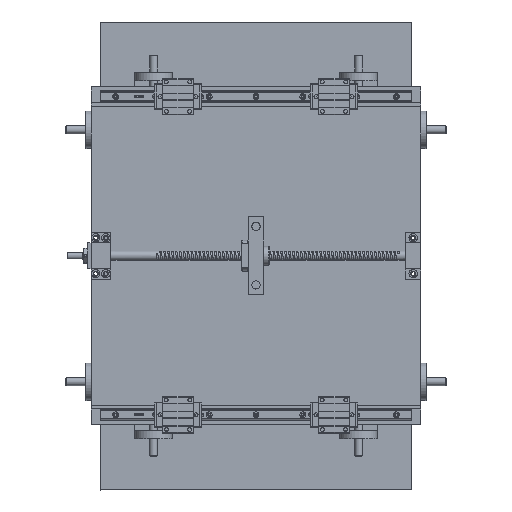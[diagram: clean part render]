
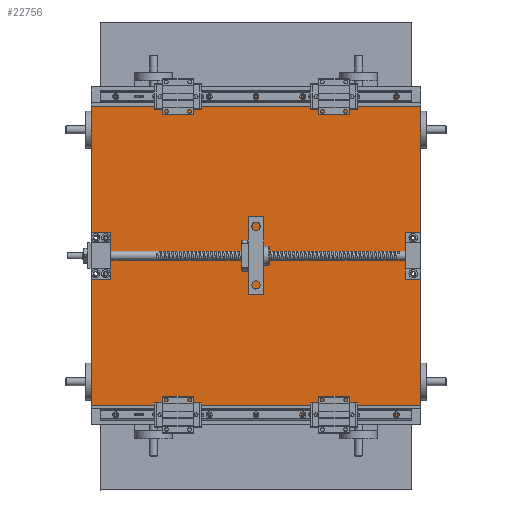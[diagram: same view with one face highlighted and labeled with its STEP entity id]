
A CAD part, top view. The second image highlights one B-rep face of the part: STEP entity #22756.
In plain terms, the highlighted planar face has unit normal (0, 0, 1).
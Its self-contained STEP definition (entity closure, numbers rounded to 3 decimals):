
#1565=FACE_BOUND('',#4392,.T.);
#1566=FACE_BOUND('',#4393,.T.);
#1567=FACE_BOUND('',#4394,.T.);
#1568=FACE_BOUND('',#4395,.T.);
#1569=FACE_BOUND('',#4396,.T.);
#1570=FACE_BOUND('',#4397,.T.);
#1571=FACE_BOUND('',#4398,.T.);
#4392=EDGE_LOOP('',(#20070));
#4393=EDGE_LOOP('',(#20071));
#4394=EDGE_LOOP('',(#20072));
#4395=EDGE_LOOP('',(#20073));
#4396=EDGE_LOOP('',(#20074));
#4397=EDGE_LOOP('',(#20075));
#4398=EDGE_LOOP('',(#20076,#20077,#20078,#20079));
#5294=CIRCLE('',#24505,2.459);
#5296=CIRCLE('',#24508,2.459);
#5298=CIRCLE('',#24511,2.459);
#5300=CIRCLE('',#24514,2.459);
#5302=CIRCLE('',#24517,2.459);
#5304=CIRCLE('',#24520,2.459);
#7429=LINE('',#44486,#9518);
#7432=LINE('',#44492,#9521);
#7435=LINE('',#44498,#9524);
#7438=LINE('',#44502,#9527);
#9518=VECTOR('',#29875,423.);
#9521=VECTOR('',#29880,433.);
#9524=VECTOR('',#29885,423.);
#9527=VECTOR('',#29890,433.);
#11479=VERTEX_POINT('',#44452);
#11481=VERTEX_POINT('',#44457);
#11483=VERTEX_POINT('',#44462);
#11485=VERTEX_POINT('',#44467);
#11487=VERTEX_POINT('',#44472);
#11489=VERTEX_POINT('',#44477);
#11492=VERTEX_POINT('',#44483);
#11493=VERTEX_POINT('',#44485);
#11495=VERTEX_POINT('',#44491);
#11497=VERTEX_POINT('',#44497);
#14418=EDGE_CURVE('',#11479,#11479,#5294,.T.);
#14420=EDGE_CURVE('',#11481,#11481,#5296,.T.);
#14422=EDGE_CURVE('',#11483,#11483,#5298,.T.);
#14424=EDGE_CURVE('',#11485,#11485,#5300,.T.);
#14426=EDGE_CURVE('',#11487,#11487,#5302,.T.);
#14428=EDGE_CURVE('',#11489,#11489,#5304,.T.);
#14431=EDGE_CURVE('',#11493,#11492,#7429,.T.);
#14434=EDGE_CURVE('',#11495,#11493,#7432,.T.);
#14437=EDGE_CURVE('',#11497,#11495,#7435,.T.);
#14440=EDGE_CURVE('',#11492,#11497,#7438,.T.);
#20070=ORIENTED_EDGE('',*,*,#14418,.T.);
#20071=ORIENTED_EDGE('',*,*,#14420,.T.);
#20072=ORIENTED_EDGE('',*,*,#14422,.T.);
#20073=ORIENTED_EDGE('',*,*,#14424,.T.);
#20074=ORIENTED_EDGE('',*,*,#14426,.T.);
#20075=ORIENTED_EDGE('',*,*,#14428,.T.);
#20076=ORIENTED_EDGE('',*,*,#14440,.T.);
#20077=ORIENTED_EDGE('',*,*,#14437,.T.);
#20078=ORIENTED_EDGE('',*,*,#14434,.T.);
#20079=ORIENTED_EDGE('',*,*,#14431,.T.);
#21618=PLANE('',#24526);
#22756=ADVANCED_FACE('',(#1565,#1566,#1567,#1568,#1569,#1570,#1571),#21618,
 .T.);
#24505=AXIS2_PLACEMENT_3D('',#44453,#29839,#29840);
#24508=AXIS2_PLACEMENT_3D('',#44458,#29845,#29846);
#24511=AXIS2_PLACEMENT_3D('',#44463,#29851,#29852);
#24514=AXIS2_PLACEMENT_3D('',#44468,#29857,#29858);
#24517=AXIS2_PLACEMENT_3D('',#44473,#29863,#29864);
#24520=AXIS2_PLACEMENT_3D('',#44478,#29869,#29870);
#24526=AXIS2_PLACEMENT_3D('',#44504,#29893,#29894);
#29839=DIRECTION('center_axis',(0.,0.,-1.));
#29840=DIRECTION('ref_axis',(1.,0.,0.));
#29845=DIRECTION('center_axis',(0.,0.,-1.));
#29846=DIRECTION('ref_axis',(1.,0.,0.));
#29851=DIRECTION('center_axis',(0.,0.,-1.));
#29852=DIRECTION('ref_axis',(1.,0.,0.));
#29857=DIRECTION('center_axis',(0.,0.,-1.));
#29858=DIRECTION('ref_axis',(1.,0.,0.));
#29863=DIRECTION('center_axis',(0.,0.,-1.));
#29864=DIRECTION('ref_axis',(1.,0.,0.));
#29869=DIRECTION('center_axis',(0.,0.,-1.));
#29870=DIRECTION('ref_axis',(1.,0.,0.));
#29875=DIRECTION('',(0.,1.,0.));
#29880=DIRECTION('',(1.,0.,0.));
#29885=DIRECTION('',(0.,-1.,0.));
#29890=DIRECTION('',(-1.,0.,0.));
#29893=DIRECTION('center_axis',(0.,0.,1.));
#29894=DIRECTION('ref_axis',(1.,0.,0.));
#44452=CARTESIAN_POINT('',(-20.542,201.5,15.));
#44453=CARTESIAN_POINT('Origin',(-23.,201.5,15.));
#44457=CARTESIAN_POINT('',(25.459,-192.5,15.));
#44458=CARTESIAN_POINT('Origin',(23.,-192.5,15.));
#44462=CARTESIAN_POINT('',(25.459,-205.5,15.));
#44463=CARTESIAN_POINT('Origin',(23.,-205.5,15.));
#44467=CARTESIAN_POINT('',(-20.542,-205.5,15.));
#44468=CARTESIAN_POINT('Origin',(-23.,-205.5,15.));
#44472=CARTESIAN_POINT('',(-20.542,-192.5,15.));
#44473=CARTESIAN_POINT('Origin',(-23.,-192.5,15.));
#44477=CARTESIAN_POINT('',(25.459,201.5,15.));
#44478=CARTESIAN_POINT('Origin',(23.,201.5,15.));
#44483=CARTESIAN_POINT('',(216.5,211.5,15.));
#44485=CARTESIAN_POINT('',(216.5,-211.5,15.));
#44486=CARTESIAN_POINT('',(216.5,211.5,15.));
#44491=CARTESIAN_POINT('',(-216.5,-211.5,15.));
#44492=CARTESIAN_POINT('',(216.5,-211.5,15.));
#44497=CARTESIAN_POINT('',(-216.5,211.5,15.));
#44498=CARTESIAN_POINT('',(-216.5,-211.5,15.));
#44502=CARTESIAN_POINT('',(-216.5,211.5,15.));
#44504=CARTESIAN_POINT('Origin',(0.,0.,15.));
